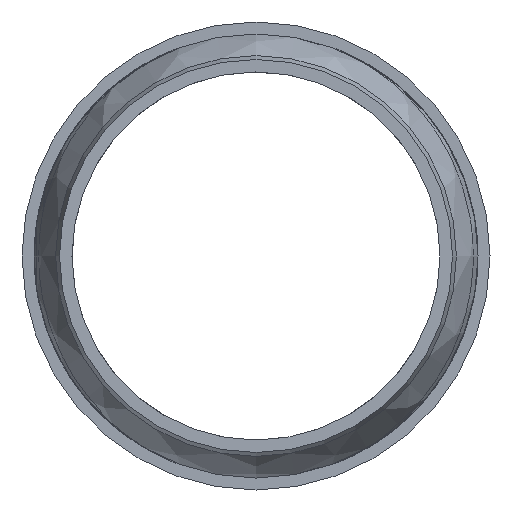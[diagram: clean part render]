
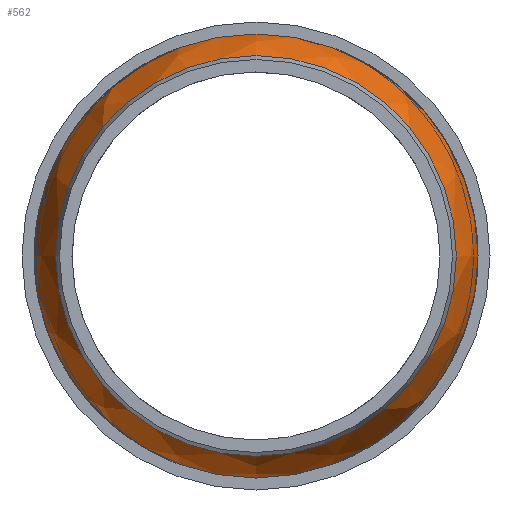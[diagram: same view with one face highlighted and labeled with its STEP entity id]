
A CAD part, left-side view. The second image highlights one B-rep face of the part: STEP entity #562.
In plain terms, the highlighted free-form (B-spline) face has degree [2, 2] with [3, 9] control points.
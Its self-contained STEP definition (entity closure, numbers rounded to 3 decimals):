
#11=(
BOUNDED_CURVE()
B_SPLINE_CURVE(2,(#2081,#2082,#2083),.UNSPECIFIED.,.F.,.F.)
B_SPLINE_CURVE_WITH_KNOTS((3,3),(0.138,0.646),
 .UNSPECIFIED.)
CURVE()
GEOMETRIC_REPRESENTATION_ITEM()
RATIONAL_B_SPLINE_CURVE((1.,0.968,1.))
REPRESENTATION_ITEM('')
);
#12=(
BOUNDED_SURFACE()
B_SPLINE_SURFACE(2,2,((#2054,#2055,#2056,#2057,#2058,#2059,#2060,#2061,
#2062),(#2063,#2064,#2065,#2066,#2067,#2068,#2069,#2070,#2071),(#2072,#2073,
#2074,#2075,#2076,#2077,#2078,#2079,#2080)),.UNSPECIFIED.,.F.,.T.,.F.)
B_SPLINE_SURFACE_WITH_KNOTS((3,3),(3,2,2,2,3),(-0.646,-0.138),
(-3.142,-1.571,0.,1.571,3.142),
 .UNSPECIFIED.)
GEOMETRIC_REPRESENTATION_ITEM()
RATIONAL_B_SPLINE_SURFACE(((1.,0.707,1.,0.707,1.,
0.707,1.,0.707,1.),(0.968,0.684,
0.968,0.684,0.968,0.684,
0.968,0.684,0.968),(1.,0.707,
1.,0.707,1.,0.707,1.,0.707,1.)))
REPRESENTATION_ITEM('')
SURFACE()
);
#147=FACE_OUTER_BOUND('',#207,.T.);
#207=EDGE_LOOP('',(#468,#469,#470,#471,#472,#473,#474));
#233=CIRCLE('',#603,61.05);
#234=CIRCLE('',#604,61.05);
#235=CIRCLE('',#605,61.05);
#241=CIRCLE('',#624,55.1);
#242=CIRCLE('',#625,55.1);
#275=VERTEX_POINT('',#1397);
#284=VERTEX_POINT('',#1789);
#285=VERTEX_POINT('',#1790);
#296=VERTEX_POINT('',#2050);
#297=VERTEX_POINT('',#2051);
#343=EDGE_CURVE('',#284,#285,#233,.T.);
#344=EDGE_CURVE('',#285,#275,#234,.T.);
#345=EDGE_CURVE('',#275,#284,#235,.T.);
#357=EDGE_CURVE('',#296,#297,#241,.T.);
#358=EDGE_CURVE('',#297,#296,#242,.T.);
#359=EDGE_CURVE('',#285,#297,#11,.T.);
#468=ORIENTED_EDGE('',*,*,#343,.F.);
#469=ORIENTED_EDGE('',*,*,#345,.F.);
#470=ORIENTED_EDGE('',*,*,#344,.F.);
#471=ORIENTED_EDGE('',*,*,#359,.T.);
#472=ORIENTED_EDGE('',*,*,#358,.T.);
#473=ORIENTED_EDGE('',*,*,#357,.T.);
#474=ORIENTED_EDGE('',*,*,#359,.F.);
#562=ADVANCED_FACE('',(#147),#12,.F.);
#603=AXIS2_PLACEMENT_3D('',#1791,#697,#698);
#604=AXIS2_PLACEMENT_3D('',#1792,#699,#700);
#605=AXIS2_PLACEMENT_3D('',#1793,#701,#702);
#624=AXIS2_PLACEMENT_3D('',#2052,#739,#740);
#625=AXIS2_PLACEMENT_3D('',#2053,#741,#742);
#697=DIRECTION('center_axis',(1.,0.,0.));
#698=DIRECTION('ref_axis',(0.,0.,
1.));
#699=DIRECTION('center_axis',(1.,0.,0.));
#700=DIRECTION('ref_axis',(0.,0.,
1.));
#701=DIRECTION('center_axis',(1.,0.,0.));
#702=DIRECTION('ref_axis',(0.,0.,
1.));
#739=DIRECTION('center_axis',(1.,0.,0.));
#740=DIRECTION('ref_axis',(0.,0.,
1.));
#741=DIRECTION('center_axis',(1.,0.,0.));
#742=DIRECTION('ref_axis',(0.,0.,
1.));
#1397=CARTESIAN_POINT('',(761.5,61.05,0.));
#1789=CARTESIAN_POINT('',(761.5,-61.05,0.));
#1790=CARTESIAN_POINT('',(761.5,0.,-61.05));
#1791=CARTESIAN_POINT('Origin',(761.5,0.,0.));
#1792=CARTESIAN_POINT('Origin',(761.5,0.,0.));
#1793=CARTESIAN_POINT('Origin',(761.5,0.,0.));
#2050=CARTESIAN_POINT('',(747.1,-55.1,0.));
#2051=CARTESIAN_POINT('',(747.1,0.,-55.1));
#2052=CARTESIAN_POINT('Origin',(747.1,0.,
0.));
#2053=CARTESIAN_POINT('Origin',(747.1,0.,
0.));
#2054=CARTESIAN_POINT('Ctrl Pts',(747.1,0.,
-55.1));
#2055=CARTESIAN_POINT('Ctrl Pts',(747.1,55.1,-55.1));
#2056=CARTESIAN_POINT('Ctrl Pts',(747.1,55.1,0.));
#2057=CARTESIAN_POINT('Ctrl Pts',(747.1,55.1,55.1));
#2058=CARTESIAN_POINT('Ctrl Pts',(747.1,0.,
55.1));
#2059=CARTESIAN_POINT('Ctrl Pts',(747.1,-55.1,55.1));
#2060=CARTESIAN_POINT('Ctrl Pts',(747.1,-55.1,0.));
#2061=CARTESIAN_POINT('Ctrl Pts',(747.1,-55.1,-55.1));
#2062=CARTESIAN_POINT('Ctrl Pts',(747.1,0.,
-55.1));
#2063=CARTESIAN_POINT('Ctrl Pts',(753.528,0.,
-59.944));
#2064=CARTESIAN_POINT('Ctrl Pts',(753.528,59.944,-59.944));
#2065=CARTESIAN_POINT('Ctrl Pts',(753.528,59.944,0.));
#2066=CARTESIAN_POINT('Ctrl Pts',(753.528,59.944,59.944));
#2067=CARTESIAN_POINT('Ctrl Pts',(753.528,0.,
59.944));
#2068=CARTESIAN_POINT('Ctrl Pts',(753.528,-59.944,59.944));
#2069=CARTESIAN_POINT('Ctrl Pts',(753.528,-59.944,0.));
#2070=CARTESIAN_POINT('Ctrl Pts',(753.528,-59.944,-59.944));
#2071=CARTESIAN_POINT('Ctrl Pts',(753.528,0.,
-59.944));
#2072=CARTESIAN_POINT('Ctrl Pts',(761.5,0.,
-61.05));
#2073=CARTESIAN_POINT('Ctrl Pts',(761.5,61.05,-61.05));
#2074=CARTESIAN_POINT('Ctrl Pts',(761.5,61.05,0.));
#2075=CARTESIAN_POINT('Ctrl Pts',(761.5,61.05,61.05));
#2076=CARTESIAN_POINT('Ctrl Pts',(761.5,0.,
61.05));
#2077=CARTESIAN_POINT('Ctrl Pts',(761.5,-61.05,61.05));
#2078=CARTESIAN_POINT('Ctrl Pts',(761.5,-61.05,0.));
#2079=CARTESIAN_POINT('Ctrl Pts',(761.5,-61.05,-61.05));
#2080=CARTESIAN_POINT('Ctrl Pts',(761.5,0.,
-61.05));
#2081=CARTESIAN_POINT('Ctrl Pts',(761.5,0.,
-61.05));
#2082=CARTESIAN_POINT('Ctrl Pts',(753.528,0.,
-59.944));
#2083=CARTESIAN_POINT('Ctrl Pts',(747.1,0.,
-55.1));
